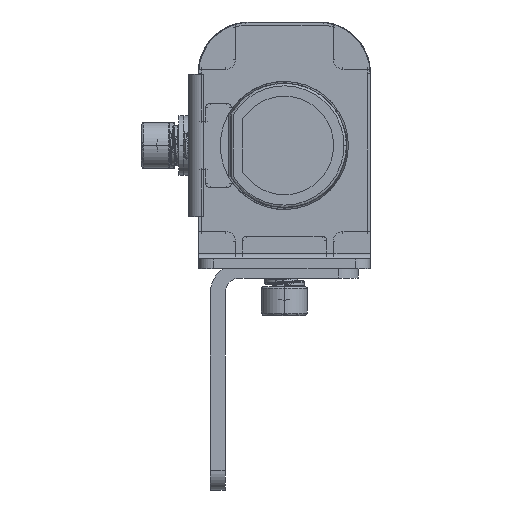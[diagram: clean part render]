
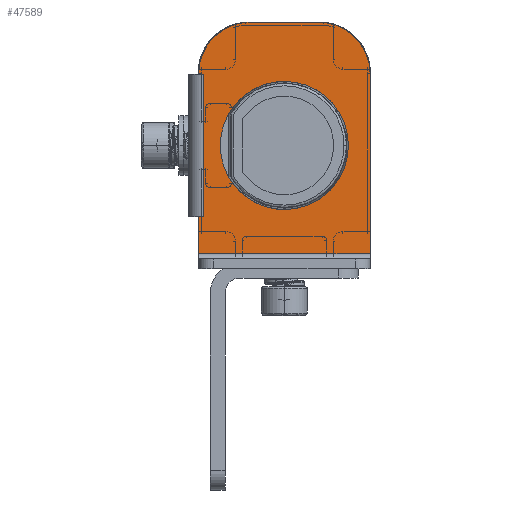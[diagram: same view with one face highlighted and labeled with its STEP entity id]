
A CAD part, front view. The second image highlights one B-rep face of the part: STEP entity #47589.
In plain terms, the highlighted planar face has unit normal (0, -1, 0) as drawn and (0, 0, -1) by its records, which use the part's own axes.
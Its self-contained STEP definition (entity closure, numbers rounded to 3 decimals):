
#46926=CARTESIAN_POINT('',(25.,0.,-2.));
#46927=DIRECTION('',(0.,0.,-1.));
#46928=DIRECTION('',(0.,-1.,0.));
#46929=AXIS2_PLACEMENT_3D('',#46926,#46927,#46928);
#46931=CARTESIAN_POINT('',(25.,0.,-2.));
#46932=DIRECTION('',(0.,0.,-1.));
#46933=DIRECTION('',(0.,1.,0.));
#46934=AXIS2_PLACEMENT_3D('',#46931,#46932,#46933);
#46936=DIRECTION('',(0.,-1.,0.));
#46937=VECTOR('',#46936,1.);
#46938=CARTESIAN_POINT('',(39.5,-16.4,-2.));
#46939=LINE('',#46938,#46937);
#46940=CARTESIAN_POINT('',(39.5,-6.9,-2.));
#46941=DIRECTION('',(0.,0.,-1.));
#46942=DIRECTION('',(1.,0.,0.));
#46943=AXIS2_PLACEMENT_3D('',#46940,#46941,#46942);
#46945=DIRECTION('',(0.,1.,0.));
#46946=VECTOR('',#46945,13.8);
#46947=CARTESIAN_POINT('',(50.,-6.9,-2.));
#46948=LINE('',#46947,#46946);
#46949=CARTESIAN_POINT('',(39.5,6.9,-2.));
#46950=DIRECTION('',(0.,0.,-1.));
#46951=DIRECTION('',(0.,1.,0.));
#46952=AXIS2_PLACEMENT_3D('',#46949,#46950,#46951);
#46954=DIRECTION('',(0.,-1.,0.));
#46955=VECTOR('',#46954,1.);
#46956=CARTESIAN_POINT('',(10.5,-16.4,-2.));
#46957=LINE('',#46956,#46955);
#47016=DIRECTION('',(1.,0.,0.));
#47017=VECTOR('',#47016,29.);
#47018=CARTESIAN_POINT('',(10.5,-16.4,-2.));
#47019=LINE('',#47018,#47017);
#47038=DIRECTION('',(-1.,0.,0.));
#47039=VECTOR('',#47038,7.5);
#47040=CARTESIAN_POINT('',(10.5,-17.4,-2.));
#47041=LINE('',#47040,#47039);
#47064=DIRECTION('',(0.,1.,0.));
#47065=VECTOR('',#47064,34.8);
#47066=CARTESIAN_POINT('',(3.,-17.4,-2.));
#47067=LINE('',#47066,#47065);
#47082=DIRECTION('',(-1.,0.,0.));
#47083=VECTOR('',#47082,36.5);
#47084=CARTESIAN_POINT('',(39.5,17.4,-2.));
#47085=LINE('',#47084,#47083);
#47418=CARTESIAN_POINT('',(3.,-17.4,-2.));
#47420=VERTEX_POINT('',#47418);
#47422=CARTESIAN_POINT('',(3.,17.4,-2.));
#47424=VERTEX_POINT('',#47422);
#47434=CARTESIAN_POINT('',(39.5,17.4,-2.));
#47435=CARTESIAN_POINT('',(50.,6.9,-2.));
#47436=VERTEX_POINT('',#47434);
#47437=VERTEX_POINT('',#47435);
#47438=CARTESIAN_POINT('',(50.,-6.9,-2.));
#47439=CARTESIAN_POINT('',(39.5,-17.4,-2.));
#47440=VERTEX_POINT('',#47438);
#47441=VERTEX_POINT('',#47439);
#47458=CARTESIAN_POINT('',(25.,-13.,-2.));
#47459=CARTESIAN_POINT('',(25.,13.,-2.));
#47460=VERTEX_POINT('',#47458);
#47461=VERTEX_POINT('',#47459);
#47506=CARTESIAN_POINT('',(39.5,-16.4,-2.));
#47507=VERTEX_POINT('',#47506);
#47510=CARTESIAN_POINT('',(10.5,-16.4,-2.));
#47511=VERTEX_POINT('',#47510);
#47554=CARTESIAN_POINT('',(10.5,-17.4,-2.));
#47555=VERTEX_POINT('',#47554);
#47558=CARTESIAN_POINT('',(50.,-17.4,-2.));
#47559=DIRECTION('',(0.,0.,-1.));
#47560=DIRECTION('',(-1.,0.,0.));
#47561=AXIS2_PLACEMENT_3D('',#47558,#47559,#47560);
#47562=PLANE('',#47561);
#47564=ORIENTED_EDGE('',*,*,#47563,.T.);
#47566=ORIENTED_EDGE('',*,*,#47565,.F.);
#47568=ORIENTED_EDGE('',*,*,#47567,.T.);
#47570=ORIENTED_EDGE('',*,*,#47569,.F.);
#47572=ORIENTED_EDGE('',*,*,#47571,.T.);
#47574=ORIENTED_EDGE('',*,*,#47573,.F.);
#47576=ORIENTED_EDGE('',*,*,#47575,.F.);
#47578=ORIENTED_EDGE('',*,*,#47577,.F.);
#47580=ORIENTED_EDGE('',*,*,#47579,.T.);
#47581=EDGE_LOOP('',(#47564,#47566,#47568,#47570,#47572,#47574,#47576,#47578,
#47580));
#47582=FACE_OUTER_BOUND('',#47581,.F.);
#47584=ORIENTED_EDGE('',*,*,#47583,.T.);
#47586=ORIENTED_EDGE('',*,*,#47585,.T.);
#47587=EDGE_LOOP('',(#47584,#47586));
#47588=FACE_BOUND('',#47587,.F.);
#47589=ADVANCED_FACE('',(#47582,#47588),#47562,.T.);
#46930=CIRCLE('',#46929,13.);
#46935=CIRCLE('',#46934,13.);
#46944=CIRCLE('',#46943,10.5);
#46953=CIRCLE('',#46952,10.5);
#47563=EDGE_CURVE('',#47507,#47441,#46939,.T.);
#47565=EDGE_CURVE('',#47440,#47441,#46944,.T.);
#47567=EDGE_CURVE('',#47440,#47437,#46948,.T.);
#47569=EDGE_CURVE('',#47436,#47437,#46953,.T.);
#47571=EDGE_CURVE('',#47436,#47424,#47085,.T.);
#47573=EDGE_CURVE('',#47420,#47424,#47067,.T.);
#47575=EDGE_CURVE('',#47555,#47420,#47041,.T.);
#47577=EDGE_CURVE('',#47511,#47555,#46957,.T.);
#47579=EDGE_CURVE('',#47511,#47507,#47019,.T.);
#47583=EDGE_CURVE('',#47460,#47461,#46930,.T.);
#47585=EDGE_CURVE('',#47461,#47460,#46935,.T.);
